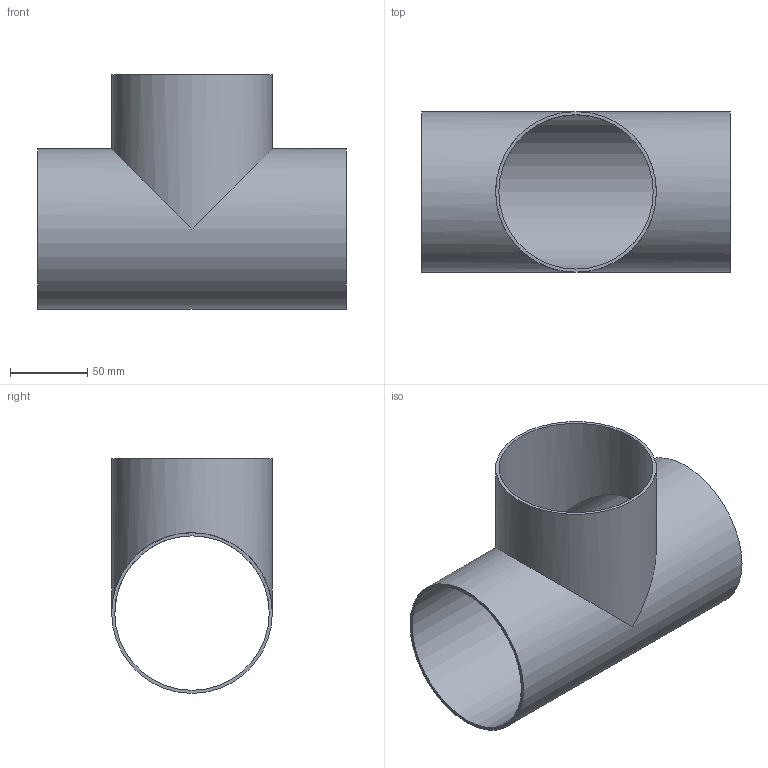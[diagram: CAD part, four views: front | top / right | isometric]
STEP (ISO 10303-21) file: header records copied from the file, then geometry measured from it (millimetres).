
FILE_DESCRIPTION(('FreeCAD Model'),'2;1');
FILE_NAME( '/home/martin/Documents/proyect/accesorios/stp/te_long_DN-100.step', '2018-01-07T08:11:45',('Author'),(''), 'Open CASCADE STEP processor 6.8','FreeCAD','Unknown');
FILE_SCHEMA(('AUTOMOTIVE_DESIGN_CC2 { 1 2 10303 214 -1 1 5 4 }'));
Length unit declared in the file: millimetre
Products named in the file (1): te_long_DN-100
Bounding box: 200 x 104 x 152 mm (x, y, z)
Volume: 150644.1 mm3; surface area: 152556.1 mm2
Topology: 1 solids, 1 shells, 7 faces, 16 edges, 12 vertices
Faces by surface type: cylinder 4, plane 3
Full cylindrical faces by diameter (mm): 100 x2, 104 x2
Entity records: 539 total; most frequent: CARTESIAN_POINT 180, DIRECTION 64, ORIENTED_EDGE 32, PCURVE 32, DEFINITIONAL_REPRESENTATION 32, AXIS2_PLACEMENT_3D 20, LINE 18, VECTOR 18
